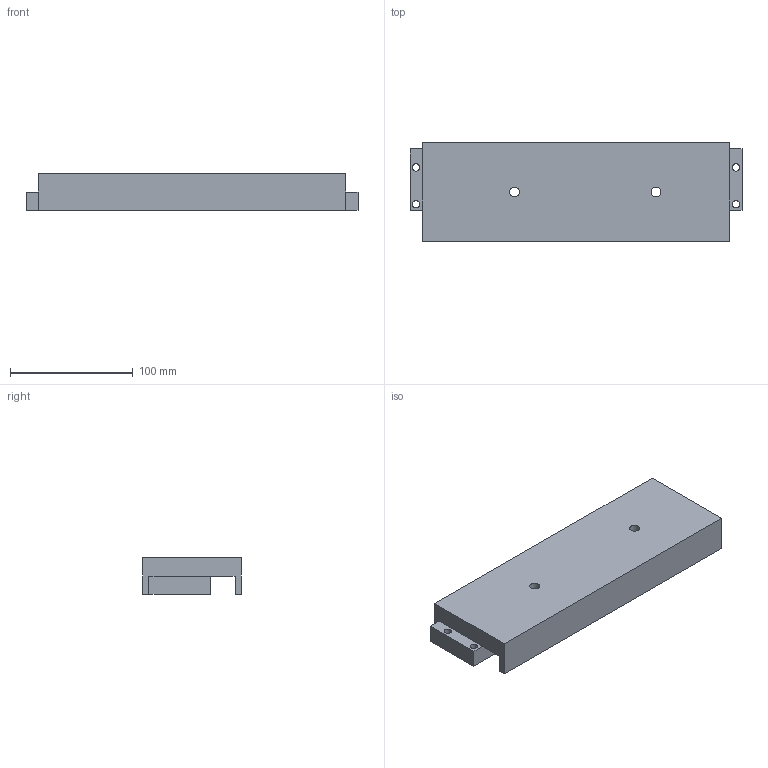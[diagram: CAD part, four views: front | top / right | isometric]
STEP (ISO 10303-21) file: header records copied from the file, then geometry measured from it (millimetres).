
FILE_DESCRIPTION(('FreeCAD Model'),'2;1');
FILE_NAME('Open CASCADE Shape Model','2026-07-06T10:13:54',(''),(''), 'Open CASCADE STEP processor 7.6','FreeCAD','Unknown');
FILE_SCHEMA(('AUTOMOTIVE_DESIGN { 1 0 10303 214 1 1 1 1 }'));
Length unit declared in the file: millimetre
Products named in the file (1): Основание сторона 4
Bounding box: 270 x 80 x 30 mm (x, y, z)
Volume: 535287.6 mm3; surface area: 71511.7 mm2
Topology: 1 solids, 1 shells, 22 faces, 60 edges, 40 vertices
Faces by surface type: plane 16, cylinder 6
Full cylindrical faces by diameter (mm): 6 x4, 8 x2
Entity records: 742 total; most frequent: CARTESIAN_POINT 123, ORIENTED_EDGE 120, DIRECTION 118, EDGE_CURVE 60, LINE 48, VECTOR 48, VERTEX_POINT 40, AXIS2_PLACEMENT_3D 35
